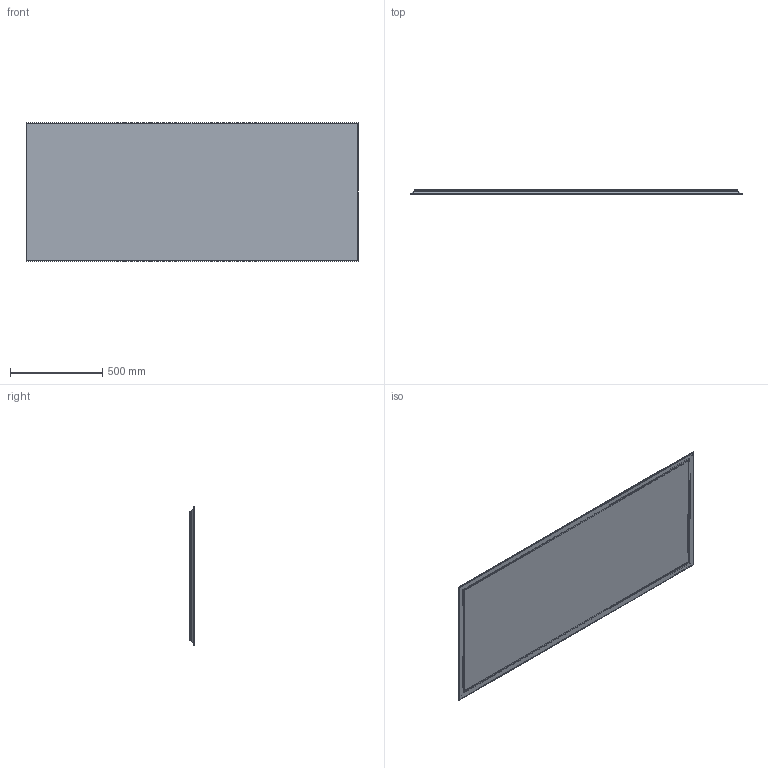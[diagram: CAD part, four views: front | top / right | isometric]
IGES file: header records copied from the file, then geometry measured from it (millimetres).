
Start section: Data from Parasolid IGES Translator 19.0.9, Copyright(c) 2006 Siemens PL M Software. All Rights Reserved.
Global section: file name: noorth-mirror-H 75 D 2,8 W 180_2064.igs; native system: By Siemens PLM Incorporated; preprocessor: XPlus GENERIC/IGES 19.0.9; author: Noname; organization: Noname; date: 20200519.091408; units: metre
Bounding box: 1800 x 28 x 750 mm (x, y, z)
Volume: 6075567.1 mm3; surface area: 3850136 mm2
Topology: 5 solids, 5 shells, 274 faces, 768 edges, 504 vertices
Faces by surface type: plane 258, cylinder 16
